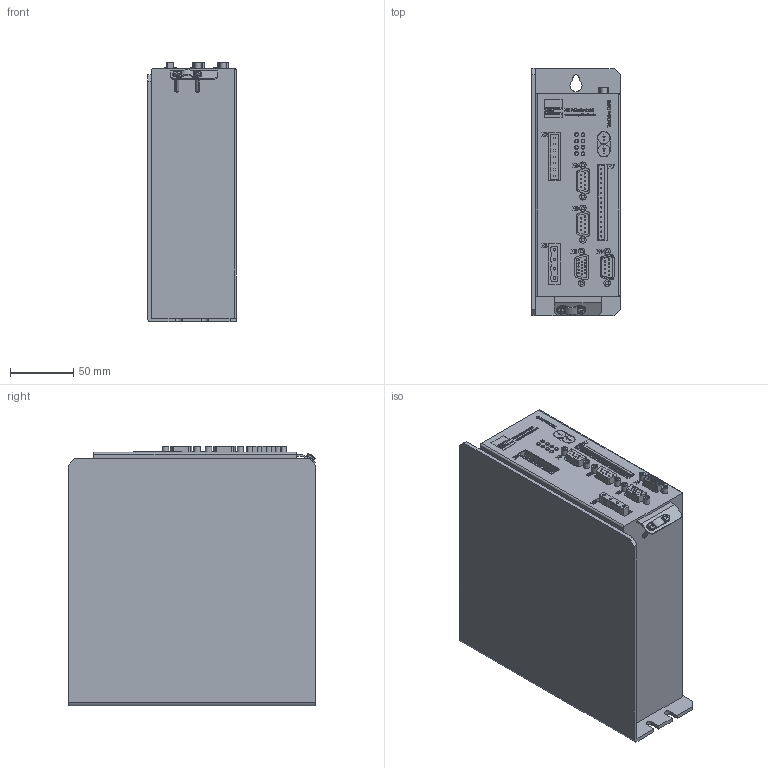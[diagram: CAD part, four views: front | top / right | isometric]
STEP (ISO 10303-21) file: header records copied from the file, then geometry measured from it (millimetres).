
FILE_DESCRIPTION(/* description */ ('Alibre Inc.'),/* implementation_level */ '2;1');
FILE_NAME(/* name */ 'export0',/* time_stamp */ '2011-02-11T08:30:00+01:00',/* author */ (''),/* organization */ ('ESR Pollmeier GmbH'),/* preprocessor_version */ 'ST-DEVELOPER v10',/* originating_system */ 'Alibre',/* authorisation */ '');
FILE_SCHEMA (('CONFIG_CONTROL_DESIGN'));
Length unit declared in the file: centimetre
Products named in the file (4): ID_1; ID_2; BÜLTE | rundkopfschrauben_M3_16
Bounding box: 70 x 195 x 205 mm (x, y, z)
Surface area: 144042.7 mm2
Topology: 19 solids, 28 shells, 1797 faces, 4567 edges, 3034 vertices
Faces by surface type: plane 979, bspline 593, cylinder 209, torus 8, sphere 4, cone 4
Full cylindrical faces by diameter (mm): 1 x66, 2 x4, 2.5 x18, 3 x8, 3.1 x2, 5 x18, 9.5 x2
Entity records: 52619 total; most frequent: CARTESIAN_POINT 14457, ORIENTED_EDGE 8798, DIRECTION 4991, EDGE_CURVE 4383, VERTEX_POINT 2996, VECTOR 2775, LINE 2775, EDGE_LOOP 2161
